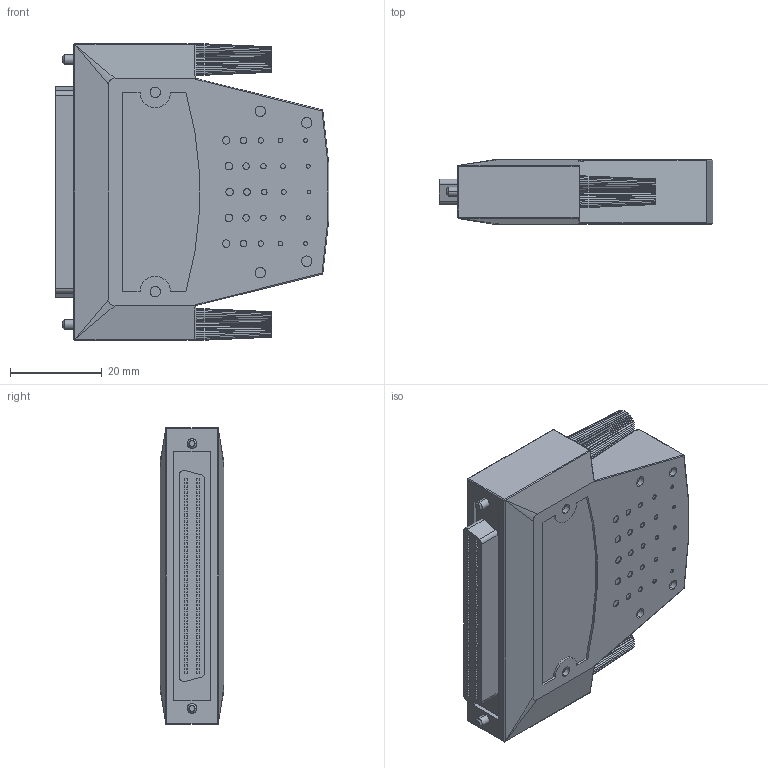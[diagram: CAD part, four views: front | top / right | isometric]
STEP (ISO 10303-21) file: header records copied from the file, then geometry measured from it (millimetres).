
FILE_DESCRIPTION((''),'2;1');
FILE_NAME('SCSI-CABLE-BACKSHELL-68POS','2007-05-23T',('chrisj'),(''),'PRO/ENGINEER BY PARAMETRIC TECHNOLOGY CORPORATION, 2006300','PRO/ENGINEER BY PARAMETRIC TECHNOLOGY CORPORATION, 2006300','');
FILE_SCHEMA(('AUTOMOTIVE_DESIGN_CC2 { 1 2 10303 214 -1 1 5 2 }'));
Length unit declared in the file: inch
Products named in the file (1): SCSI-CABLE-BACKSHELL-68POS
Bounding box: 59.81 x 13.97 x 64.93 mm (x, y, z)
Volume: 41013.5 mm3; surface area: 11967.9 mm2
Topology: 1 solids, 1 shells, 946 faces, 2352 edges, 1432 vertices
Faces by surface type: plane 620, cylinder 161, bspline 126, cone 32, sphere 4, torus 3
Entity records: 30077 total; most frequent: CARTESIAN_POINT 8571, ORIENTED_EDGE 4456, DIRECTION 4042, EDGE_CURVE 2228, VECTOR 1706, LINE 1706, VERTEX_POINT 1546, AXIS2_PLACEMENT_3D 1168
